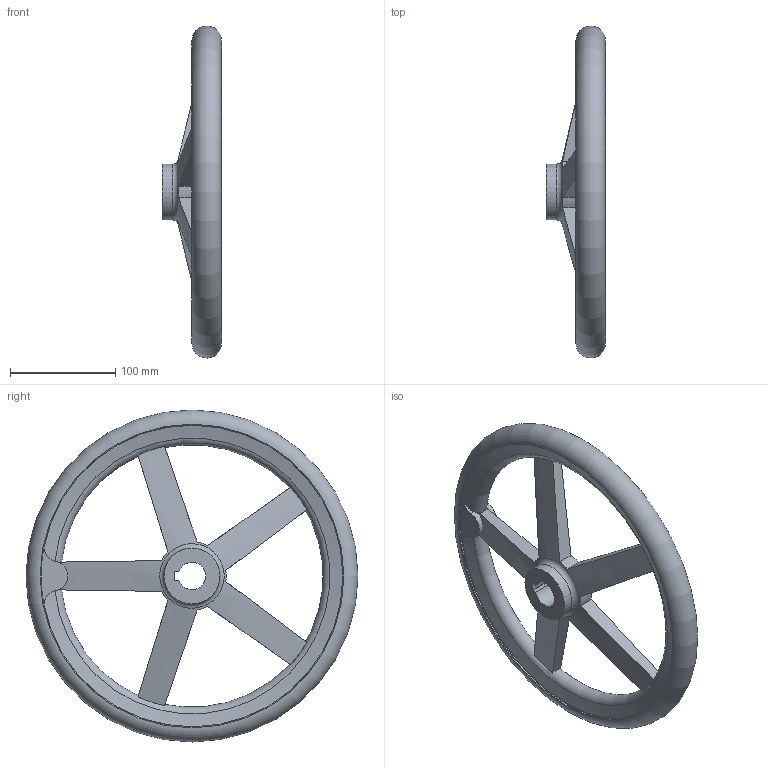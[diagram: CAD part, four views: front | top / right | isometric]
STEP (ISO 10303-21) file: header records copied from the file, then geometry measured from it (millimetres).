
FILE_DESCRIPTION( ( 'STEP AP203' ), '1' );
FILE_NAME( 'C:/Temp/Ganter_Step_05_03_2020/data/1_3/din_950/din_950_k/din_950_k_a/Handwheel DIN 950-GG-315-K26-A.stp', '2020-03-05T10:30:40', ( 'License CC BY-ND 4.0' ), ( 'CADENAS' ), ' ', 'PARTsolutions', ' ' );
FILE_SCHEMA( ( 'CONFIG_CONTROL_DESIGN' ) );
Length unit declared in the file: millimetre
Products named in the file (1): _Handwheel DIN 950-GG-315-K26-A
Bounding box: 56 x 314.99 x 314.99 mm (x, y, z)
Volume: 810756.7 mm3; surface area: 136361.9 mm2
Topology: 1 solids, 1 shells, 59 faces, 179 edges, 116 vertices
Faces by surface type: torus 20, cylinder 18, plane 17, cone 4
Full cylindrical faces by diameter (mm): 53 x2, 287 x2
Entity records: 2535 total; most frequent: CARTESIAN_POINT 1026, ORIENTED_EDGE 324, DIRECTION 274, EDGE_CURVE 162, AXIS2_PLACEMENT_3D 124, VERTEX_POINT 113, EDGE_LOOP 78, B_SPLINE_CURVE_WITH_KNOTS 72
